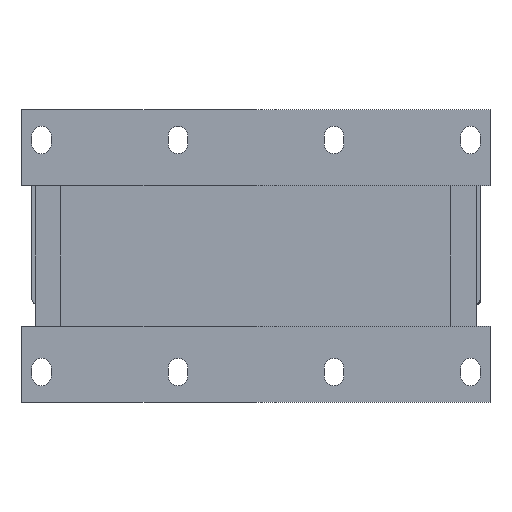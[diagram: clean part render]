
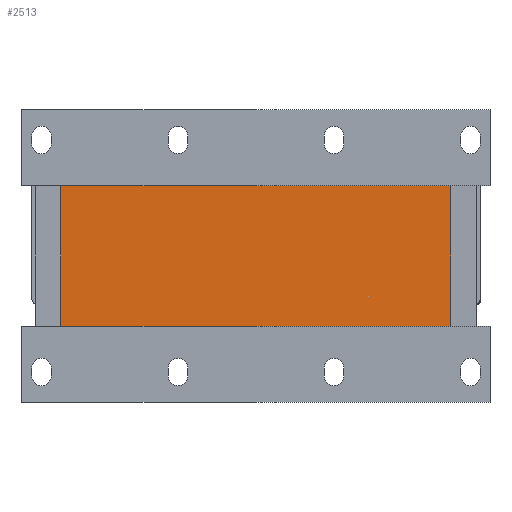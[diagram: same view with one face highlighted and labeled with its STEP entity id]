
A CAD part, front view. The second image highlights one B-rep face of the part: STEP entity #2513.
In plain terms, the highlighted planar face has unit normal (0, -1, 0).
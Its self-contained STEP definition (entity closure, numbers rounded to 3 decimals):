
#231=FACE_OUTER_BOUND('',#391,.T.);
#391=EDGE_LOOP('',(#1941,#1942,#1943,#1944));
#593=LINE('',#3883,#873);
#597=LINE('',#3891,#877);
#600=LINE('',#3897,#880);
#603=LINE('',#3902,#883);
#873=VECTOR('',#3141,10.);
#877=VECTOR('',#3147,10.);
#880=VECTOR('',#3152,10.);
#883=VECTOR('',#3157,10.);
#1137=VERTEX_POINT('',#3881);
#1138=VERTEX_POINT('',#3882);
#1141=VERTEX_POINT('',#3890);
#1143=VERTEX_POINT('',#3896);
#1421=EDGE_CURVE('',#1137,#1138,#593,.T.);
#1425=EDGE_CURVE('',#1138,#1141,#597,.T.);
#1428=EDGE_CURVE('',#1141,#1143,#600,.T.);
#1431=EDGE_CURVE('',#1143,#1137,#603,.T.);
#1941=ORIENTED_EDGE('',*,*,#1431,.T.);
#1942=ORIENTED_EDGE('',*,*,#1421,.T.);
#1943=ORIENTED_EDGE('',*,*,#1425,.T.);
#1944=ORIENTED_EDGE('',*,*,#1428,.T.);
#2397=PLANE('',#2721);
#2513=ADVANCED_FACE('',(#231),#2397,.T.);
#2721=AXIS2_PLACEMENT_3D('',#3904,#3159,#3160);
#3141=DIRECTION('',(0.,0.,1.));
#3147=DIRECTION('',(-1.,0.,0.));
#3152=DIRECTION('',(0.,0.,-1.));
#3157=DIRECTION('',(1.,0.,0.));
#3159=DIRECTION('center_axis',(0.,-1.,0.));
#3160=DIRECTION('ref_axis',(0.,0.,-1.));
#3881=CARTESIAN_POINT('',(100.,2.,-36.));
#3882=CARTESIAN_POINT('',(100.,2.,36.));
#3883=CARTESIAN_POINT('',(100.,2.,-36.));
#3890=CARTESIAN_POINT('',(-100.,2.,36.));
#3891=CARTESIAN_POINT('',(100.,2.,36.));
#3896=CARTESIAN_POINT('',(-100.,2.,-36.));
#3897=CARTESIAN_POINT('',(-100.,2.,36.));
#3902=CARTESIAN_POINT('',(-100.,2.,-36.));
#3904=CARTESIAN_POINT('Origin',(0.,2.,0.));
